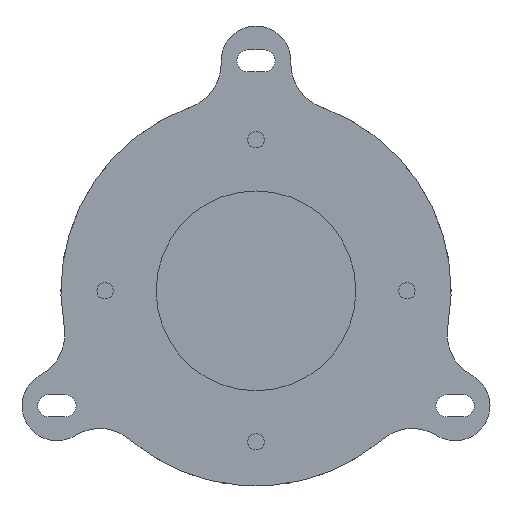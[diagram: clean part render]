
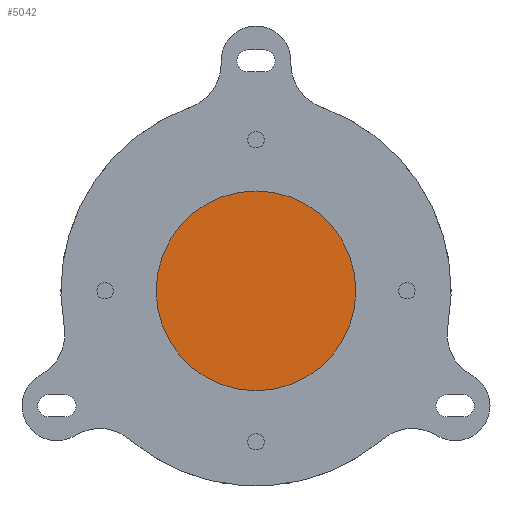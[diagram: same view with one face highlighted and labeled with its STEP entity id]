
A CAD part, front view. The second image highlights one B-rep face of the part: STEP entity #5042.
In plain terms, the highlighted planar face has unit normal (0, -1, 0).
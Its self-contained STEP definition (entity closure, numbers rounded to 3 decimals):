
#166 = AXIS2_PLACEMENT_3D ( 'NONE', #2452, #4885, #4200 ) ;
#172 = VERTEX_POINT ( 'NONE', #6674 ) ;
#417 = EDGE_CURVE ( 'NONE', #3002, #172, #5255, .T. ) ;
#439 = PLANE ( 'NONE',  #2339 ) ;
#685 = CARTESIAN_POINT ( 'NONE',  ( -1343.855, -1836.824, 0. ) ) ;
#1023 = FACE_OUTER_BOUND ( 'NONE', #1474, .T. ) ;
#1251 = DIRECTION ( 'NONE',  ( 0., 1., 0. ) ) ;
#1474 = EDGE_LOOP ( 'NONE', ( #4383, #4027 ) ) ;
#2339 = AXIS2_PLACEMENT_3D ( 'NONE', #6129, #3326, #5532 ) ;
#2452 = CARTESIAN_POINT ( 'NONE',  ( -1343.855, -1836.824, 0. ) ) ;
#2894 = CARTESIAN_POINT ( 'NONE',  ( -1343.855, -1836.824, -84. ) ) ;
#3002 = VERTEX_POINT ( 'NONE', #2894 ) ;
#3326 = DIRECTION ( 'NONE',  ( 0., 1., 0. ) ) ;
#3448 = AXIS2_PLACEMENT_3D ( 'NONE', #685, #1251, #3545 ) ;
#3545 = DIRECTION ( 'NONE',  ( 0., 0., 1. ) ) ;
#3867 = EDGE_CURVE ( 'NONE', #172, #3002, #4579, .T. ) ;
#4027 = ORIENTED_EDGE ( 'NONE', *, *, #417, .F. ) ;
#4200 = DIRECTION ( 'NONE',  ( 0., 0., 1. ) ) ;
#4383 = ORIENTED_EDGE ( 'NONE', *, *, #3867, .F. ) ;
#4579 = CIRCLE ( 'NONE', #166, 84. ) ;
#4885 = DIRECTION ( 'NONE',  ( 0., 1., 0. ) ) ;
#5042 = ADVANCED_FACE ( 'NONE', ( #1023 ), #439, .F. ) ;
#5255 = CIRCLE ( 'NONE', #3448, 84. ) ;
#5532 = DIRECTION ( 'NONE',  ( 0., 0., 1. ) ) ;
#6129 = CARTESIAN_POINT ( 'NONE',  ( -1343.855, -1836.824, 0. ) ) ;
#6674 = CARTESIAN_POINT ( 'NONE',  ( -1343.855, -1836.824, 84. ) ) ;
